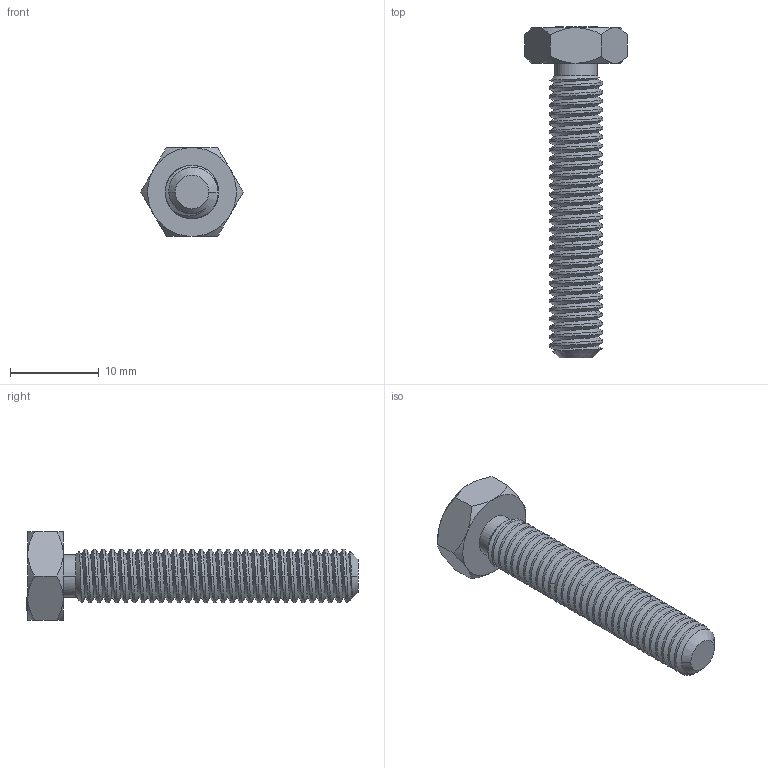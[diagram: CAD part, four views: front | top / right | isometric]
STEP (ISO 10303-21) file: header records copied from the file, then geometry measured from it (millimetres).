
FILE_DESCRIPTION((''),'2;1');
FILE_NAME('DIN933-BOLT-FULLTHREADHEX-M6-30','2018-03-09T',('jchu'),(''),'PRO/ENGINEER BY PARAMETRIC TECHNOLOGY CORPORATION, 2015110','PRO/ENGINEER BY PARAMETRIC TECHNOLOGY CORPORATION, 2015110','');
FILE_SCHEMA(('AUTOMOTIVE_DESIGN { 1 0 10303 214 1 1 1 1 }'));
Length unit declared in the file: millimetre
Products named in the file (1): DIN933-BOLT-FULLTHREADHEX-M6-30
Bounding box: 11.55 x 37.33 x 10 mm (x, y, z)
Volume: 1131 mm3; surface area: 1234.3 mm2
Topology: 1 solids, 1 shells, 215 faces, 585 edges, 380 vertices
Faces by surface type: plane 110, cylinder 62, bspline 27, cone 16
Entity records: 16077 total; most frequent: CARTESIAN_POINT 9224, ORIENTED_EDGE 1170, DIRECTION 786, PRESENTATION_STYLE_ASSIGNMENT 586, STYLED_ITEM 586, CURVE_STYLE 585, EDGE_CURVE 585, VERTEX_POINT 380
